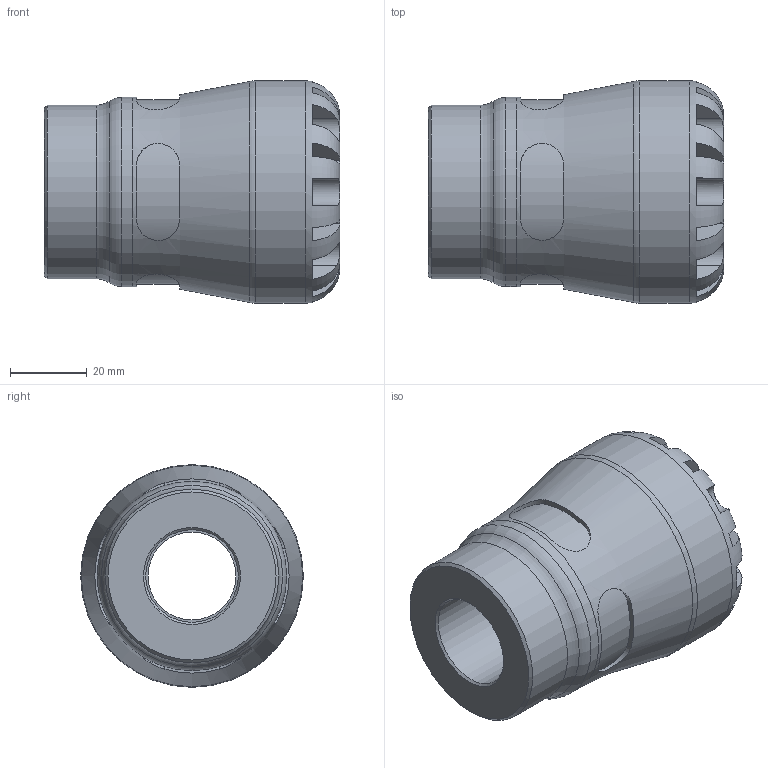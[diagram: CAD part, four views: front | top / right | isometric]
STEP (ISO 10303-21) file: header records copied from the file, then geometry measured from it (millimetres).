
FILE_DESCRIPTION(/* description */ ('PLASSON FEMALE ADAPTOR 32X3/4" SERIES 1'),/* implementation_level */ '2;1');
FILE_NAME(/* name */ 'C:\Dropbox\KIMPROJECTS-Inventor\99-16-3568-Processing\1003\100300032007_190300032007.ipt.step',/* time_stamp */ '2017-01-22T09:49:12+02:00',/* author */ ('KIM'),/* organization */ (''),/* preprocessor_version */ 'ST-DEVELOPER v15.6',/* originating_system */ 'Autodesk Inventor 2015',/* authorisation */ '');
FILE_SCHEMA (('AUTOMOTIVE_DESIGN { 1 0 10303 214 3 1 1 }'));
Length unit declared in the file: millimetre
Products named in the file (1): 100300032007_190300032007
Bounding box: 77 x 58 x 58 mm (x, y, z)
Volume: 104700.5 mm3; surface area: 24241.4 mm2
Topology: 1 solids, 1 shells, 104 faces, 255 edges, 159 vertices
Faces by surface type: plane 61, cylinder 35, torus 5, cone 3
Full cylindrical faces by diameter (mm): 22.911 x1, 24.117 x1, 26.667 x1, 32 x1, 45.24 x1, 49.3 x1, 58 x1
Entity records: 3884 total; most frequent: CARTESIAN_POINT 1445, DIRECTION 472, ORIENTED_EDGE 470, EDGE_CURVE 235, AXIS2_PLACEMENT_3D 196, VERTEX_POINT 155, EDGE_LOOP 128, STYLED_ITEM 105
